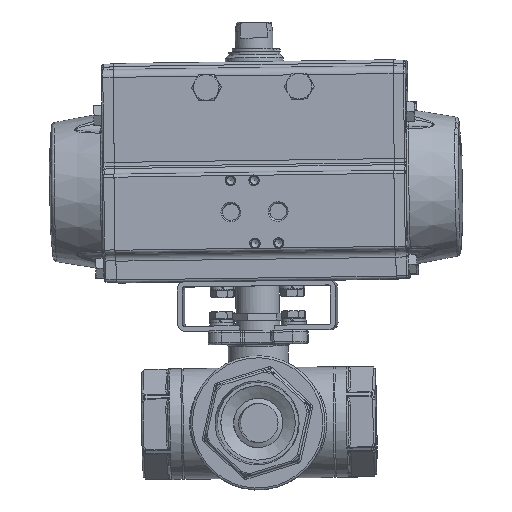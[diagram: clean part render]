
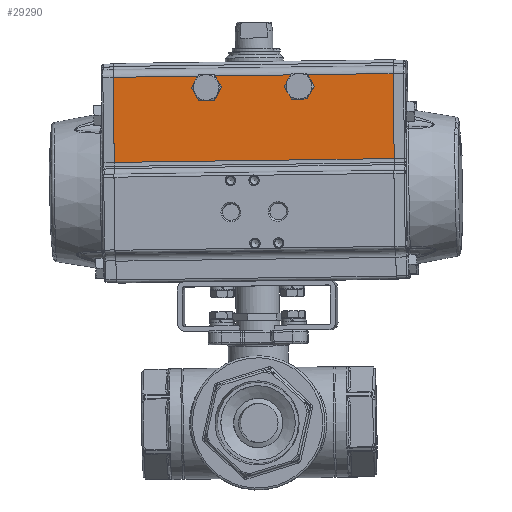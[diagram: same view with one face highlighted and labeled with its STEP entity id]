
A CAD part, top view. The second image highlights one B-rep face of the part: STEP entity #29290.
In plain terms, the highlighted planar face has unit normal (-0.019, 0, 1).
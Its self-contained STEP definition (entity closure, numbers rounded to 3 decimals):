
#24386=CARTESIAN_POINT('',(68.296,52.575,33.734));
#24387=VERTEX_POINT('',#24386);
#24395=CARTESIAN_POINT('',(68.88,9.496,33.745));
#24396=VERTEX_POINT('',#24395);
#24397=CARTESIAN_POINT('',(68.296,52.575,33.734));
#24398=DIRECTION('',(0.014,-1.,0.));
#24399=VECTOR('',#24398,43.082);
#24400=LINE('',#24397,#24399);
#24401=EDGE_CURVE('',#24387,#24396,#24400,.T.);
#29125=CARTESIAN_POINT('',(-72.882,7.573,31.07));
#29126=VERTEX_POINT('',#29125);
#29127=CARTESIAN_POINT('',(68.88,9.496,33.745));
#29128=DIRECTION('',(-1.,-0.014,-0.019));
#29129=VECTOR('',#29128,141.8);
#29130=LINE('',#29127,#29129);
#29131=EDGE_CURVE('',#24396,#29126,#29130,.T.);
#29143=CARTESIAN_POINT('',(68.88,9.496,33.745));
#29144=DIRECTION('',(-0.019,0.,1.));
#29145=DIRECTION('',(1.,0.0,0.019));
#29146=AXIS2_PLACEMENT_3D('',#29143,#29144,#29145);
#29147=PLANE('',#29146);
#29148=CARTESIAN_POINT('',(21.076,39.633,32.843));
#29149=VERTEX_POINT('',#29148);
#29150=CARTESIAN_POINT('',(15.404,42.806,32.736));
#29151=VERTEX_POINT('',#29150);
#29152=CARTESIAN_POINT('',(20.987,46.132,32.841));
#29153=DIRECTION('',(0.019,0.,-1.));
#29154=DIRECTION('',(1.,0.014,0.019));
#29155=AXIS2_PLACEMENT_3D('',#29152,#29153,#29154);
#29156=CIRCLE('',#29155,6.5);
#29157=EDGE_CURVE('',#29149,#29151,#29156,.T.);
#29158=ORIENTED_EDGE('',*,*,#29157,.T.);
#29159=CARTESIAN_POINT('',(15.316,49.306,32.734));
#29160=VERTEX_POINT('',#29159);
#29161=CARTESIAN_POINT('',(20.987,46.132,32.841));
#29162=DIRECTION('',(0.019,0.,-1.));
#29163=DIRECTION('',(1.,0.014,0.019));
#29164=AXIS2_PLACEMENT_3D('',#29161,#29162,#29163);
#29165=CIRCLE('',#29164,6.5);
#29166=EDGE_CURVE('',#29151,#29160,#29165,.T.);
#29167=ORIENTED_EDGE('',*,*,#29166,.T.);
#29168=CARTESIAN_POINT('',(17.975,51.892,32.784));
#29169=VERTEX_POINT('',#29168);
#29170=CARTESIAN_POINT('',(20.987,46.132,32.841));
#29171=DIRECTION('',(0.019,0.,-1.));
#29172=DIRECTION('',(1.,0.014,0.019));
#29173=AXIS2_PLACEMENT_3D('',#29170,#29171,#29172);
#29174=CIRCLE('',#29173,6.5);
#29175=EDGE_CURVE('',#29160,#29169,#29174,.T.);
#29176=ORIENTED_EDGE('',*,*,#29175,.T.);
#29177=CARTESIAN_POINT('',(-23.145,51.334,32.009));
#29178=VERTEX_POINT('',#29177);
#29179=CARTESIAN_POINT('',(17.975,51.892,32.784));
#29180=DIRECTION('',(-1.,-0.014,-0.019));
#29181=VECTOR('',#29180,41.131);
#29182=LINE('',#29179,#29181);
#29183=EDGE_CURVE('',#29169,#29178,#29182,.T.);
#29184=ORIENTED_EDGE('',*,*,#29183,.T.);
#29185=CARTESIAN_POINT('',(-20.416,48.821,32.06));
#29186=VERTEX_POINT('',#29185);
#29187=CARTESIAN_POINT('',(-26.,45.495,31.955));
#29188=DIRECTION('',(0.019,0.,-1.));
#29189=DIRECTION('',(-0.014,1.,0.));
#29190=AXIS2_PLACEMENT_3D('',#29187,#29188,#29189);
#29191=CIRCLE('',#29190,6.5);
#29192=EDGE_CURVE('',#29178,#29186,#29191,.T.);
#29193=ORIENTED_EDGE('',*,*,#29192,.T.);
#29194=CARTESIAN_POINT('',(-20.328,42.322,32.062));
#29195=VERTEX_POINT('',#29194);
#29196=CARTESIAN_POINT('',(-26.,45.495,31.955));
#29197=DIRECTION('',(0.019,0.,-1.));
#29198=DIRECTION('',(-0.014,1.,0.));
#29199=AXIS2_PLACEMENT_3D('',#29196,#29197,#29198);
#29200=CIRCLE('',#29199,6.5);
#29201=EDGE_CURVE('',#29186,#29195,#29200,.T.);
#29202=ORIENTED_EDGE('',*,*,#29201,.T.);
#29203=CARTESIAN_POINT('',(-25.912,38.995,31.956));
#29204=VERTEX_POINT('',#29203);
#29205=CARTESIAN_POINT('',(-26.,45.495,31.955));
#29206=DIRECTION('',(0.019,0.,-1.));
#29207=DIRECTION('',(-0.014,1.,0.));
#29208=AXIS2_PLACEMENT_3D('',#29205,#29206,#29207);
#29209=CIRCLE('',#29208,6.5);
#29210=EDGE_CURVE('',#29195,#29204,#29209,.T.);
#29211=ORIENTED_EDGE('',*,*,#29210,.T.);
#29212=CARTESIAN_POINT('',(-31.583,42.169,31.849));
#29213=VERTEX_POINT('',#29212);
#29214=CARTESIAN_POINT('',(-26.,45.495,31.955));
#29215=DIRECTION('',(0.019,0.,-1.));
#29216=DIRECTION('',(-0.014,1.,0.));
#29217=AXIS2_PLACEMENT_3D('',#29214,#29215,#29216);
#29218=CIRCLE('',#29217,6.5);
#29219=EDGE_CURVE('',#29204,#29213,#29218,.T.);
#29220=ORIENTED_EDGE('',*,*,#29219,.T.);
#29221=CARTESIAN_POINT('',(-31.672,48.668,31.848));
#29222=VERTEX_POINT('',#29221);
#29223=CARTESIAN_POINT('',(-26.,45.495,31.955));
#29224=DIRECTION('',(0.019,0.,-1.));
#29225=DIRECTION('',(-0.014,1.,0.));
#29226=AXIS2_PLACEMENT_3D('',#29223,#29224,#29225);
#29227=CIRCLE('',#29226,6.5);
#29228=EDGE_CURVE('',#29213,#29222,#29227,.T.);
#29229=ORIENTED_EDGE('',*,*,#29228,.T.);
#29230=CARTESIAN_POINT('',(-29.012,51.255,31.898));
#29231=VERTEX_POINT('',#29230);
#29232=CARTESIAN_POINT('',(-26.,45.495,31.955));
#29233=DIRECTION('',(0.019,0.,-1.));
#29234=DIRECTION('',(-0.014,1.,0.));
#29235=AXIS2_PLACEMENT_3D('',#29232,#29233,#29234);
#29236=CIRCLE('',#29235,6.5);
#29237=EDGE_CURVE('',#29222,#29231,#29236,.T.);
#29238=ORIENTED_EDGE('',*,*,#29237,.T.);
#29239=CARTESIAN_POINT('',(-73.466,50.652,31.059));
#29240=VERTEX_POINT('',#29239);
#29241=CARTESIAN_POINT('',(-29.012,51.255,31.898));
#29242=DIRECTION('',(-1.,-0.014,-0.019));
#29243=VECTOR('',#29242,44.466);
#29244=LINE('',#29241,#29243);
#29245=EDGE_CURVE('',#29231,#29240,#29244,.T.);
#29246=ORIENTED_EDGE('',*,*,#29245,.T.);
#29247=CARTESIAN_POINT('',(-73.466,50.652,31.059));
#29248=DIRECTION('',(0.014,-1.,0.));
#29249=VECTOR('',#29248,43.082);
#29250=LINE('',#29247,#29249);
#29251=EDGE_CURVE('',#29240,#29126,#29250,.T.);
#29252=ORIENTED_EDGE('',*,*,#29251,.T.);
#29253=ORIENTED_EDGE('',*,*,#29131,.F.);
#29254=ORIENTED_EDGE('',*,*,#24401,.F.);
#29255=CARTESIAN_POINT('',(23.842,51.972,32.895));
#29256=VERTEX_POINT('',#29255);
#29257=CARTESIAN_POINT('',(68.296,52.575,33.734));
#29258=DIRECTION('',(-1.,-0.014,-0.019));
#29259=VECTOR('',#29258,44.466);
#29260=LINE('',#29257,#29259);
#29261=EDGE_CURVE('',#24387,#29256,#29260,.T.);
#29262=ORIENTED_EDGE('',*,*,#29261,.T.);
#29263=CARTESIAN_POINT('',(26.571,49.458,32.947));
#29264=VERTEX_POINT('',#29263);
#29265=CARTESIAN_POINT('',(20.987,46.132,32.841));
#29266=DIRECTION('',(0.019,0.,-1.));
#29267=DIRECTION('',(1.,0.014,0.019));
#29268=AXIS2_PLACEMENT_3D('',#29265,#29266,#29267);
#29269=CIRCLE('',#29268,6.5);
#29270=EDGE_CURVE('',#29256,#29264,#29269,.T.);
#29271=ORIENTED_EDGE('',*,*,#29270,.T.);
#29272=CARTESIAN_POINT('',(26.659,42.959,32.948));
#29273=VERTEX_POINT('',#29272);
#29274=CARTESIAN_POINT('',(20.987,46.132,32.841));
#29275=DIRECTION('',(0.019,0.,-1.));
#29276=DIRECTION('',(1.,0.014,0.019));
#29277=AXIS2_PLACEMENT_3D('',#29274,#29275,#29276);
#29278=CIRCLE('',#29277,6.5);
#29279=EDGE_CURVE('',#29264,#29273,#29278,.T.);
#29280=ORIENTED_EDGE('',*,*,#29279,.T.);
#29281=CARTESIAN_POINT('',(20.987,46.132,32.841));
#29282=DIRECTION('',(0.019,0.,-1.));
#29283=DIRECTION('',(1.,0.014,0.019));
#29284=AXIS2_PLACEMENT_3D('',#29281,#29282,#29283);
#29285=CIRCLE('',#29284,6.5);
#29286=EDGE_CURVE('',#29273,#29149,#29285,.T.);
#29287=ORIENTED_EDGE('',*,*,#29286,.T.);
#29288=EDGE_LOOP('',(#29158,#29167,#29176,#29184,#29193,#29202,#29211,#29220,#29229,#29238,#29246,#29252,#29253,#29254,#29262,#29271,#29280,#29287));
#29289=FACE_OUTER_BOUND('',#29288,.T.);
#29290=ADVANCED_FACE('',(#29289),#29147,.T.);
